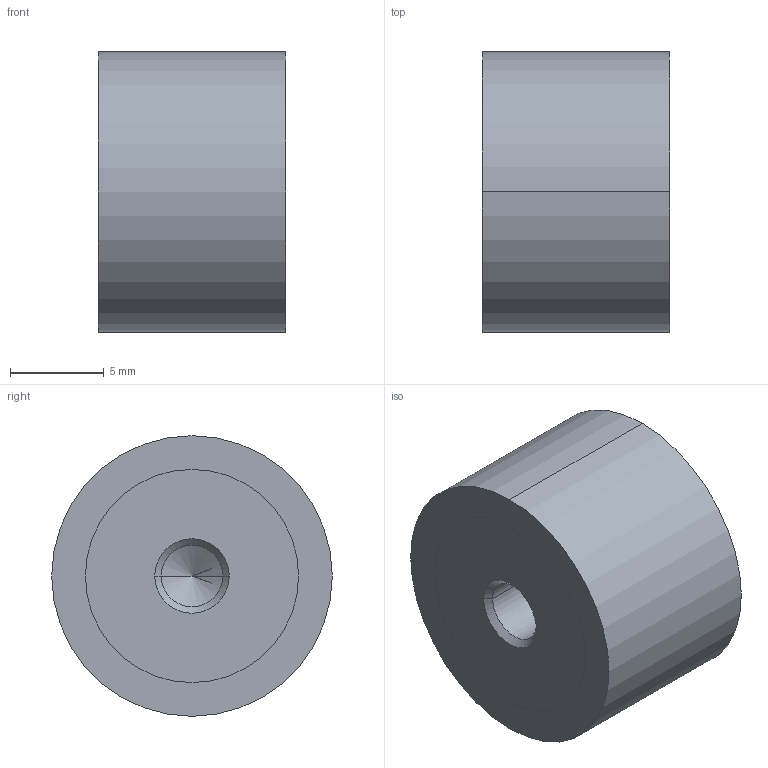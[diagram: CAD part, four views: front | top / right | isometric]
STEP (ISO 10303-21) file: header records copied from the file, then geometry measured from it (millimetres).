
FILE_DESCRIPTION (( 'STEP AP214' ), '1' );
FILE_NAME ('451-15-10-M4-EE-70.step', '2020-03-05T09:10:10', ( '' ), ( '' ), 'SwSTEP 2.0', 'SolidWorks 2019', '' );
FILE_SCHEMA (( 'AUTOMOTIVE_DESIGN' ));
Length unit declared in the file: millimetre
Products named in the file (1): 451-15-10-M4-EE-70
Bounding box: 10 x 15 x 15 mm (x, y, z)
Volume: 1689.9 mm3; surface area: 907.1 mm2
Topology: 1 solids, 1 shells, 22 faces, 46 edges, 26 vertices
Faces by surface type: cylinder 10, cone 8, plane 4
Entity records: 684 total; most frequent: DIRECTION 112, CARTESIAN_POINT 91, ORIENTED_EDGE 84, AXIS2_PLACEMENT_3D 47, EDGE_CURVE 42, VERTEX_POINT 26, EDGE_LOOP 26, CIRCLE 24
